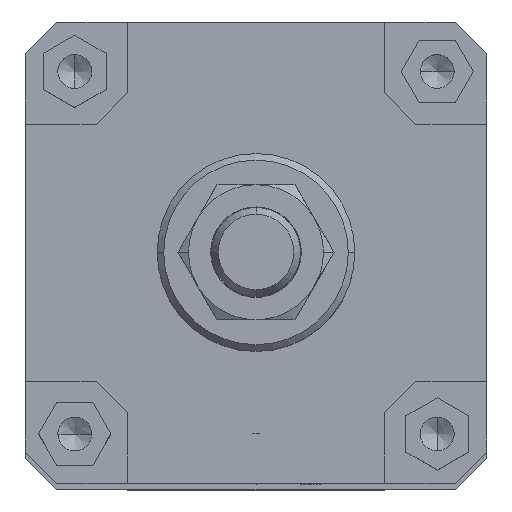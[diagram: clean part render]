
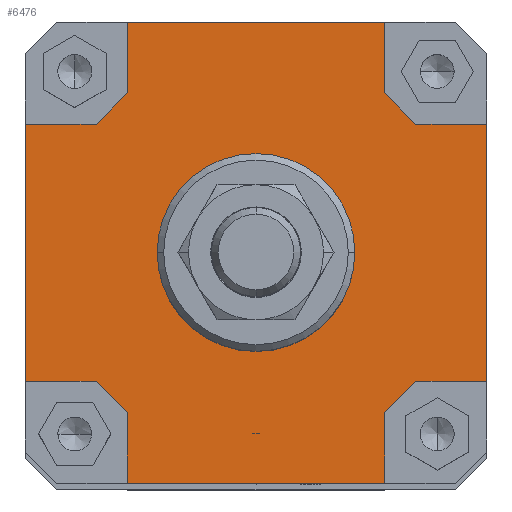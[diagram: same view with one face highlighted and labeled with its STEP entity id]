
A CAD part, top view. The second image highlights one B-rep face of the part: STEP entity #6476.
In plain terms, the highlighted planar face has unit normal (0, 0, 1).
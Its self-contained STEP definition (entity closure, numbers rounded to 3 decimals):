
#2320=CARTESIAN_POINT('',(-30.0,0.,580.0));
#2321=VERTEX_POINT('',#2320);
#2330=CARTESIAN_POINT('',(30.0,0.,580.0));
#2331=VERTEX_POINT('',#2330);
#2332=CARTESIAN_POINT('',(0.0,0.0,580.0));
#2333=DIRECTION('',(0.0,0.0,-1.0));
#2334=DIRECTION('',(-1.0,0.0,0.0));
#2335=AXIS2_PLACEMENT_3D('',#2332,#2333,#2334);
#2336=CIRCLE('',#2335,30.0);
#2337=EDGE_CURVE('',#2331,#2321,#2336,.T.);
#2557=CARTESIAN_POINT('',(0.0,0.0,580.0));
#2558=DIRECTION('',(0.0,0.0,-1.0));
#2559=DIRECTION('',(-1.0,0.0,0.0));
#2560=AXIS2_PLACEMENT_3D('',#2557,#2558,#2559);
#2561=CIRCLE('',#2560,30.0);
#2562=EDGE_CURVE('',#2321,#2331,#2561,.T.);
#2641=CARTESIAN_POINT('',(-39.,70.,580.0));
#2642=VERTEX_POINT('',#2641);
#2649=CARTESIAN_POINT('',(39.,70.,580.0));
#2650=VERTEX_POINT('',#2649);
#2651=CARTESIAN_POINT('',(-39.,70.,580.0));
#2652=DIRECTION('',(1.0,0.0,0.0));
#2653=VECTOR('',#2652,78.);
#2654=LINE('',#2651,#2653);
#2655=EDGE_CURVE('',#2642,#2650,#2654,.T.);
#3100=CARTESIAN_POINT('',(70.,39.,580.0));
#3101=VERTEX_POINT('',#3100);
#3108=CARTESIAN_POINT('',(70.,-39.0,580.0));
#3109=VERTEX_POINT('',#3108);
#3110=CARTESIAN_POINT('',(70.,39.,580.0));
#3111=DIRECTION('',(0.0,-1.0,0.0));
#3112=VECTOR('',#3111,78.);
#3113=LINE('',#3110,#3112);
#3114=EDGE_CURVE('',#3101,#3109,#3113,.T.);
#3181=CARTESIAN_POINT('',(-39.,-48.5,580.0));
#3182=VERTEX_POINT('',#3181);
#3189=CARTESIAN_POINT('',(-48.5,-39.,580.0));
#3190=VERTEX_POINT('',#3189);
#3191=CARTESIAN_POINT('',(-39.,-48.5,580.0));
#3192=DIRECTION('',(-0.707,0.707,0.0));
#3193=VECTOR('',#3192,13.435);
#3194=LINE('',#3191,#3193);
#3195=EDGE_CURVE('',#3182,#3190,#3194,.T.);
#3309=CARTESIAN_POINT('',(-70.,-39.,580.0));
#3310=VERTEX_POINT('',#3309);
#3311=CARTESIAN_POINT('',(-70.,-39.,580.0));
#3312=DIRECTION('',(1.0,0.0,0.0));
#3313=VECTOR('',#3312,21.5);
#3314=LINE('',#3311,#3313);
#3315=EDGE_CURVE('',#3310,#3190,#3314,.T.);
#3342=CARTESIAN_POINT('',(48.5,-39.,580.0));
#3343=VERTEX_POINT('',#3342);
#3350=CARTESIAN_POINT('',(39.,-48.5,580.0));
#3351=VERTEX_POINT('',#3350);
#3352=CARTESIAN_POINT('',(48.5,-39.,580.0));
#3353=DIRECTION('',(-0.707,-0.707,0.0));
#3354=VECTOR('',#3353,13.435);
#3355=LINE('',#3352,#3354);
#3356=EDGE_CURVE('',#3343,#3351,#3355,.T.);
#3454=CARTESIAN_POINT('',(39.,-70.,580.0));
#3455=VERTEX_POINT('',#3454);
#3456=CARTESIAN_POINT('',(39.,-70.,580.0));
#3457=DIRECTION('',(0.0,1.0,0.0));
#3458=VECTOR('',#3457,21.5);
#3459=LINE('',#3456,#3458);
#3460=EDGE_CURVE('',#3455,#3351,#3459,.T.);
#3487=CARTESIAN_POINT('',(39.,48.5,580.0));
#3488=VERTEX_POINT('',#3487);
#3495=CARTESIAN_POINT('',(48.5,39.,580.0));
#3496=VERTEX_POINT('',#3495);
#3497=CARTESIAN_POINT('',(39.,48.5,580.0));
#3498=DIRECTION('',(0.707,-0.707,0.0));
#3499=VECTOR('',#3498,13.435);
#3500=LINE('',#3497,#3499);
#3501=EDGE_CURVE('',#3488,#3496,#3500,.T.);
#3592=CARTESIAN_POINT('',(70.,39.,580.0));
#3593=DIRECTION('',(-1.0,0.0,0.0));
#3594=VECTOR('',#3593,21.5);
#3595=LINE('',#3592,#3594);
#3596=EDGE_CURVE('',#3101,#3496,#3595,.T.);
#3609=CARTESIAN_POINT('',(-48.5,39.,580.0));
#3610=VERTEX_POINT('',#3609);
#3617=CARTESIAN_POINT('',(-39.,48.5,580.0));
#3618=VERTEX_POINT('',#3617);
#3619=CARTESIAN_POINT('',(-48.5,39.,580.0));
#3620=DIRECTION('',(0.707,0.707,0.0));
#3621=VECTOR('',#3620,13.435);
#3622=LINE('',#3619,#3621);
#3623=EDGE_CURVE('',#3610,#3618,#3622,.T.);
#3640=CARTESIAN_POINT('',(-39.,70.,580.0));
#3641=DIRECTION('',(0.0,-1.0,0.0));
#3642=VECTOR('',#3641,21.5);
#3643=LINE('',#3640,#3642);
#3644=EDGE_CURVE('',#2642,#3618,#3643,.T.);
#4674=CARTESIAN_POINT('',(-70.,39.0,580.0));
#4675=VERTEX_POINT('',#4674);
#4676=CARTESIAN_POINT('',(-70.,-39.,580.0));
#4677=DIRECTION('',(0.0,1.0,0.0));
#4678=VECTOR('',#4677,78.0);
#4679=LINE('',#4676,#4678);
#4680=EDGE_CURVE('',#3310,#4675,#4679,.T.);
#6070=CARTESIAN_POINT('',(-48.5,39.,580.0));
#6071=DIRECTION('',(-1.0,0.0,0.0));
#6072=VECTOR('',#6071,21.5);
#6073=LINE('',#6070,#6072);
#6074=EDGE_CURVE('',#3610,#4675,#6073,.T.);
#6231=CARTESIAN_POINT('',(39.,48.5,580.0));
#6232=DIRECTION('',(0.0,1.0,0.0));
#6233=VECTOR('',#6232,21.5);
#6234=LINE('',#6231,#6233);
#6235=EDGE_CURVE('',#3488,#2650,#6234,.T.);
#6392=CARTESIAN_POINT('',(48.5,-39.,580.0));
#6393=DIRECTION('',(1.0,0.0,0.0));
#6394=VECTOR('',#6393,21.5);
#6395=LINE('',#6392,#6394);
#6396=EDGE_CURVE('',#3343,#3109,#6395,.T.);
#6437=CARTESIAN_POINT('',(0.,0.,580.0));
#6438=DIRECTION('',(0.0,0.0,1.0));
#6439=DIRECTION('',(1.0,0.0,0.0));
#6440=AXIS2_PLACEMENT_3D('',#6437,#6438,#6439);
#6441=PLANE('',#6440);
#6442=ORIENTED_EDGE('',*,*,#3644,.T.);
#6443=ORIENTED_EDGE('',*,*,#3623,.F.);
#6444=ORIENTED_EDGE('',*,*,#6074,.T.);
#6445=ORIENTED_EDGE('',*,*,#4680,.F.);
#6446=ORIENTED_EDGE('',*,*,#3315,.T.);
#6447=ORIENTED_EDGE('',*,*,#3195,.F.);
#6448=CARTESIAN_POINT('',(-39.,-70.,580.0));
#6449=VERTEX_POINT('',#6448);
#6450=CARTESIAN_POINT('',(-39.,-48.5,580.0));
#6451=DIRECTION('',(0.0,-1.0,0.0));
#6452=VECTOR('',#6451,21.5);
#6453=LINE('',#6450,#6452);
#6454=EDGE_CURVE('',#3182,#6449,#6453,.T.);
#6455=ORIENTED_EDGE('',*,*,#6454,.T.);
#6456=CARTESIAN_POINT('',(39.,-70.,580.0));
#6457=DIRECTION('',(-1.0,0.0,0.0));
#6458=VECTOR('',#6457,78.);
#6459=LINE('',#6456,#6458);
#6460=EDGE_CURVE('',#3455,#6449,#6459,.T.);
#6461=ORIENTED_EDGE('',*,*,#6460,.F.);
#6462=ORIENTED_EDGE('',*,*,#3460,.T.);
#6463=ORIENTED_EDGE('',*,*,#3356,.F.);
#6464=ORIENTED_EDGE('',*,*,#6396,.T.);
#6465=ORIENTED_EDGE('',*,*,#3114,.F.);
#6466=ORIENTED_EDGE('',*,*,#3596,.T.);
#6467=ORIENTED_EDGE('',*,*,#3501,.F.);
#6468=ORIENTED_EDGE('',*,*,#6235,.T.);
#6469=ORIENTED_EDGE('',*,*,#2655,.F.);
#6470=EDGE_LOOP('',(#6442,#6443,#6444,#6445,#6446,#6447,#6455,#6461,#6462,#6463,#6464,#6465,#6466,#6467,#6468,#6469));
#6471=FACE_OUTER_BOUND('',#6470,.T.);
#6472=ORIENTED_EDGE('',*,*,#2337,.T.);
#6473=ORIENTED_EDGE('',*,*,#2562,.T.);
#6474=EDGE_LOOP('',(#6472,#6473));
#6475=FACE_BOUND('',#6474,.T.);
#6476=ADVANCED_FACE('',(#6471,#6475),#6441,.T.);
